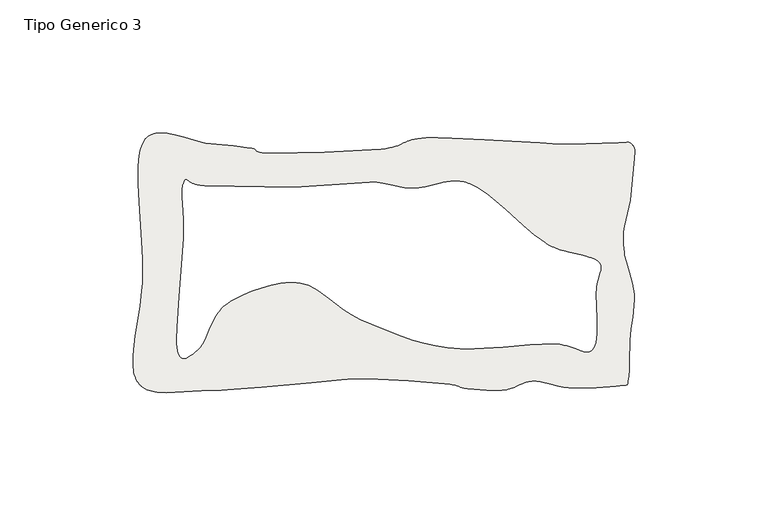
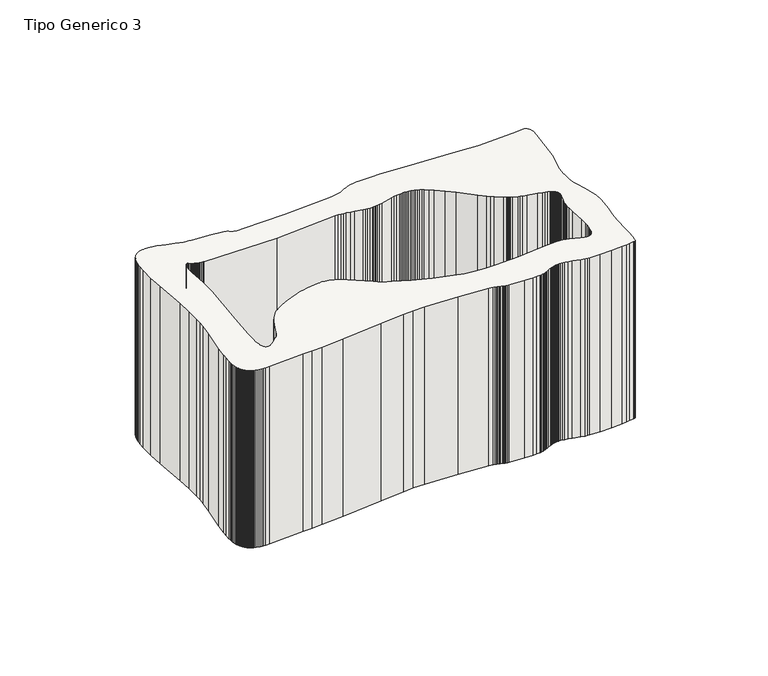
"""IFC4 building model written with IfcOpenShell, lengths in millimetres: slab geometry, Tipo Generico 3."""

from ifc_helpers import new_model, si_unit, frame, origin, place, context, project, spatial, polyline, outline, extrude, source, transform, mapped, element, save


def tipo_generico_3_98846efd(model_context):
    return source(origin(), model_context, "Body", "SweptSolid", [
        extrude(outline(polyline([(-1760.9485736, -478.9509697), (-1760.8884542, -476.7151747), (-1760.7050429, -474.3327444), (-1760.0611211, -469.2025091), (-1758.3188734, -458.0029401), (-1757.5931646, -452.2317603), (-1757.3484137, -449.3686027), (-1757.213221, -446.5451929), (-1757.2742569, -440.4514421), (-1757.6392466, -433.5979559), (-1758.6359509, -419.0414542), (-1758.944178, -412.0536159), (-1758.9106097, -405.736017), (-1758.7149911, -402.9403026), (-1758.5636243, -401.6527654), (-1758.3731957, -400.4462534), (-1758.141262, -399.3262599), (-1757.8653831, -398.2985035), (-1757.7100494, -397.8209024), (-1757.5425057, -397.3684805), (-1757.363064, -396.9419207), (-1757.1708023, -396.5418361), (-1756.9648097, -396.1673832), (-1756.7444731, -395.8167374), (-1756.5097927, -395.4894376), (-1756.2613786, -395.184871), (-1755.9998435, -394.9024302), (-1755.7254912, -394.6415052), (-1755.4386252, -394.4017136), (-1755.1395521, -394.1822908), (-1754.8291883, -393.98286), (-1754.5072274, -393.8026536), (-1754.1745859, -393.6412163), (-1753.8315703, -393.4980111), (-1753.4784813, -393.3724306), (-1753.115932, -393.2638649), (-1752.7439222, -393.1717796), (-1752.3633685, -393.095638), (-1751.9742681, -393.0348298), (-1751.5772367, -392.9889024), (-1750.761197, -392.9390054), (-1749.9179962, -392.9414485), (-1749.0512948, -392.991801), (-1748.1641487, -393.0853369), (-1747.2599148, -393.2177829), (-1745.413296, -393.5807146), (-1741.6590226, -394.5723836), (-1737.9978296, -395.6768131), (-1734.6396739, -396.6040134), (-1733.1394304, -396.9105621), (-1732.4454597, -397.0086779), (-1731.7936041, -397.0639897), (-1723.2218292, -397.7515504), (-1716.8521994, -398.6163429), (-1716.5204716, -398.6729536), (-1716.2317755, -398.7333794), (-1715.982754, -398.7972352), (-1715.7691311, -398.8642229), (-1715.5878565, -398.9339545), (-1715.5078997, -398.9697382), (-1715.4346566, -399.0060533), (-1715.3675199, -399.0429026), (-1715.3061776, -399.0802101), (-1715.2497215, -399.1179759), (-1715.198146, -399.1560482), (-1715.1508439, -399.1944999), (-1715.1075086, -399.2331795), (-1715.0672266, -399.2721654), (-1715.029995, -399.311306), (-1714.9616354, -399.3901157), (-1714.8993793, -399.46908), (-1714.7770038, -399.6264745), (-1714.7095607, -399.7041427), (-1714.6726327, -399.7425186), (-1714.6329608, -399.780588), (-1714.589932, -399.8183538), (-1714.54324, -399.8555855), (-1714.4922746, -399.8924347), (-1714.4367322, -399.9286767), (-1714.3760027, -399.9644577), (-1714.3097797, -399.9996285), (-1714.2374532, -400.0341134), (-1714.1584129, -400.0679123), (-1713.9792749, -400.1332974), (-1713.7683988, -400.195323), (-1713.5221213, -400.2537639), (-1713.2364755, -400.3081621), (-1712.5327408, -400.4036041), (-1711.6272839, -400.4787562), (-1709.0903578, -400.556804), (-1688.897793, -400.1647291), (-1667.565091, -399.0044508), (-1665.8803678, -398.8033388), (-1664.4519926, -398.564236), (-1663.2431892, -398.2933923), (-1662.2167317, -397.9972178), (-1661.335841, -397.682277), (-1660.5635948, -397.3547467), (-1659.1970174, -396.6878612), (-1658.5286812, -396.3612474), (-1657.8211314, -396.0476786), (-1657.0375945, -395.7537194), (-1656.6056172, -395.6160077), (-1656.1408334, -395.4855466), (-1655.0939284, -395.249722), (-1653.8599516, -395.0525009), (-1652.4021268, -394.9003694), (-1650.6832224, -394.7997403), (-1646.3671234, -394.7523594), (-1641.0888022, -394.8721428), (-1628.9867508, -395.4402265), (-1607.9937104, -396.6758846), (-1600.8496977, -397.1138109), (-1599.3200018, -397.2112378), (-1596.7391304, -397.2335155), (-1578.3161262, -396.5647998), (-1575.2777975, -396.3897805), (-1575.1380278, -396.3823049), (-1575.0772955, -396.3813125), (-1575.0214495, -396.382229), (-1574.9691121, -396.3853553), (-1574.919215, -396.3908488), (-1574.8706928, -396.3987827), (-1574.8224741, -396.4093114), (-1574.7733418, -396.4226629), (-1574.7220727, -396.4389916), (-1574.6090059, -396.4810279), (-1574.309168, -396.6075249), (-1574.2185307, -396.6487993), (-1574.13003, -396.693813), (-1574.0438179, -396.7424871), (-1573.959897, -396.7945967), (-1573.8781072, -396.8500632), (-1573.7984569, -396.9088078), (-1573.7210951, -396.9705297), (-1573.6457181, -397.0351502), (-1573.5015204, -397.1725583), (-1573.3657176, -397.3198795), (-1573.2381551, -397.475902), (-1573.1188301, -397.639476), (-1573.0074416, -397.80946), (-1572.9041389, -397.9846311), (-1572.8084663, -398.163845), (-1572.7204239, -398.3460334), (-1572.6400117, -398.529903), (-1572.5670722, -398.7143827), (-1572.4428665, -399.080362), (-1572.2986717, -399.556667), (-1572.2905832, -399.5958806), (-1572.2844796, -399.6341806), (-1572.2803609, -399.6724805), (-1572.2780724, -399.7120766), (-1572.2776141, -399.7538093), (-1572.2791407, -399.7989747), (-1572.2870746, -399.9033458), (-1572.550288, -402.3947242), (-1574.0360359, -418.2148098), (-1576.364529, -427.9169579), (-1576.6155353, -430.2409472), (-1576.6986943, -431.3580421), (-1576.742946, -432.4891013), (-1576.7395892, -433.6672321), (-1576.6809964, -434.9252437), (-1576.558621, -436.2962434), (-1576.364529, -437.813198), (-1576.2243011, -438.6328223), (-1576.0408897, -439.4886885), (-1575.5706124, -441.2968555), (-1574.4027068, -445.2111155), (-1573.2845407, -449.3557854), (-1572.8765223, -451.4519598), (-1572.7333929, -452.4951284), (-1572.6397052, -453.5307427), (-1572.594998, -454.5727643), (-1572.5913348, -455.6350815), (-1572.6879239, -457.8072457), (-1573.1676588, -462.2506063), (-1573.7809108, -466.6514696), (-1574.2301278, -470.8006406), (-1574.4092658, -478.8825342), (-1574.486324, -482.4486646), (-1574.596034, -483.9363973), (-1574.6779756, -484.584286), (-1574.781582, -485.1598453), (-1574.8771028, -485.6575115), (-1574.9399689, -486.080408), (-1575.0069538, -486.7295168), (-1575.0309099, -486.969463), (-1575.0447955, -487.0712392), (-1575.0615797, -487.1620284), (-1575.0714984, -487.2036092), (-1575.0826372, -487.242747), (-1575.0951508, -487.2795204), (-1575.1090336, -487.3141599), (-1575.1166638, -487.3306376), (-1575.1245976, -487.3466599), (-1575.1331444, -487.3622239), (-1575.1421465, -487.3771778), (-1575.1516069, -487.3917494), (-1575.1615256, -487.4058627), (-1575.1719026, -487.4194447), (-1575.1830414, -487.4327202), (-1575.1946357, -487.4455375), (-1575.2068429, -487.4578965), (-1575.2196602, -487.4698731), (-1575.2330903, -487.4814702), (-1575.2471277, -487.4927637), (-1575.261927, -487.503672), (-1575.2773392, -487.5142008), (-1575.2935133, -487.5244259), (-1575.3278464, -487.5440327), (-1575.3653816, -487.5624953), (-1575.4061247, -487.5798896), (-1575.4502218, -487.5962942), (-1575.5490994, -487.626964), (-1575.6632346, -487.6551175), (-1575.9421639, -487.7077585), (-1577.9169581, -487.9930979), (-1579.5874892, -488.2013032), (-1581.7211258, -488.3854005), (-1586.8689831, -488.657619), (-1592.3435329, -488.7624455), (-1597.1271624, -488.6526596), (-1598.1371422, -488.5717104), (-1599.1182825, -488.4497932), (-1601.0004545, -488.1092938), (-1604.4887648, -487.2264211), (-1606.1197759, -486.7895603), (-1607.6920423, -486.4260213), (-1608.460018, -486.2882337), (-1609.2179231, -486.1885942), (-1609.9675852, -486.1336619), (-1610.3397468, -486.1250421), (-1610.71023, -486.1300773), (-1611.0747642, -486.1495323), (-1611.4290733, -486.1831007), (-1611.7737701, -486.2299445), (-1612.109462, -486.2890743), (-1612.4372201, -486.3597225), (-1612.7573507, -486.4409753), (-1613.3783819, -486.6318622), (-1613.9782066, -486.8547937), (-1614.5623127, -487.1027468), (-1615.7068751, -487.6460366), (-1616.8575383, -488.2060348), (-1617.4492746, -488.4748177), (-1618.059628, -488.726971), (-1618.6942412, -488.9553932), (-1619.3589141, -489.1531484), (-1620.0589856, -489.3132897), (-1620.4242817, -489.3770695), (-1620.800562, -489.4288727), (-1622.4309658, -489.5673464), (-1624.2266191, -489.6273898), (-1628.0771752, -489.5622352), (-1635.1598455, -489.0407676), (-1635.8159745, -488.9618792), (-1636.3663604, -488.8714695), (-1636.8299212, -488.7709922), (-1637.2260389, -488.66151), (-1637.5737861, -488.5442457), (-1637.892542, -488.4205742), (-1638.5192214, -488.1587326), (-1638.8655966, -488.0230817), (-1639.2595777, -487.8858282), (-1639.7202399, -487.7484229), (-1640.2671172, -487.6118582), (-1640.9189728, -487.4775792), (-1641.6953377, -487.3467358), (-1643.6977485, -487.1003065), (-1657.3536037, -485.9911454), (-1672.6102556, -485.3009139), (-1678.0828205, -485.3928473), (-1682.7005876, -485.7122133), (-1693.9551648, -486.7121985), (-1712.6957047, -488.4787087), (-1722.9969128, -489.3155782), (-1727.8104502, -489.5588025), (-1732.181788, -489.6228888), (-1748.3673974, -490.490428), (-1750.1780047, -490.4526622), (-1751.0495868, -490.3959756), (-1751.8961444, -490.3103735), (-1752.7158474, -490.1934157), (-1753.5074727, -490.0422007), (-1754.2691901, -489.8540605), (-1754.9988658, -489.6263215), (-1755.3513447, -489.4967769), (-1755.6952768, -489.3563184), (-1756.0303614, -489.2045693), (-1756.3565929, -489.0413017), (-1756.6733667, -488.8661307), (-1756.9809838, -488.6786006), (-1757.2788339, -488.4785569), (-1757.56692, -488.2655441), (-1757.844632, -488.0392558), (-1758.1122707, -487.7993883), (-1758.3695324, -487.5455593), (-1758.6158099, -487.2774624), (-1758.8514068, -486.9947152), (-1759.0757102, -486.6970168), (-1759.288723, -486.3839822), (-1759.4898323, -486.0553835), (-1759.6781271, -485.7114514), (-1759.8514679, -485.3527171), (-1760.0107685, -484.979639), (-1760.1560318, -484.5924476), (-1760.2878676, -484.1913705), (-1760.4065826, -483.7768661), (-1760.6058616, -482.9082585), (-1760.7566183, -481.9890707), (-1760.8622096, -481.0215855), (-1760.9250758, -480.008097), (-1760.9485736, -478.9509697)]), holes=[polyline([(-1741.7328754, -411.2597762), (-1741.9571796, -411.7942915), (-1742.0697894, -412.1143446), (-1742.1659198, -412.4566756), (-1742.2464862, -412.8212081), (-1742.3124042, -413.2077895), (-1742.3648944, -413.6164198), (-1742.4042621, -414.0468703), (-1742.4482074, -414.9729262), (-1742.423183, -417.0826827), (-1742.296535, -419.5301161), (-1741.9751849, -425.4100905), (-1741.8985858, -428.8286696), (-1741.9571796, -432.5570021), (-1743.6319842, -454.522029), (-1744.3869891, -465.9814559), (-1744.4809833, -470.5603896), (-1744.4242206, -472.4034224), (-1744.3656268, -473.1934462), (-1744.2856708, -473.8882552), (-1744.1852679, -474.5018111), (-1744.0674701, -475.0532637), (-1743.9331927, -475.5448256), (-1743.8599506, -475.7688246), (-1743.7827411, -475.9787856), (-1743.7018695, -476.1747847), (-1743.6173358, -476.3572798), (-1743.52914, -476.5264998), (-1743.4372821, -476.6826735), (-1743.3420673, -476.8261824), (-1743.2434955, -476.9572554), (-1743.1415668, -477.0761214), (-1743.0893817, -477.131053), (-1743.0365863, -477.1830855), (-1742.9831805, -477.2322951), (-1742.9285541, -477.2785292), (-1742.8736224, -477.3220168), (-1742.8177753, -477.3626051), (-1742.7610126, -477.4005232), (-1742.7039447, -477.4356947), (-1742.6459613, -477.468196), (-1742.5870624, -477.4980269), (-1742.5278583, -477.5251875), (-1742.4677386, -477.5498305), (-1742.4073138, -477.5718794), (-1742.3459735, -477.591487), (-1742.2840228, -477.6085768), (-1742.2214618, -477.6232253), (-1742.1582904, -477.6354323), (-1742.0948138, -477.6453505), (-1742.0304217, -477.6529036), (-1741.9654193, -477.6580916), (-1741.8341937, -477.6617537), (-1741.7005267, -477.6567183), (-1741.5650287, -477.6430617), (-1741.4276996, -477.6212416), (-1741.2882342, -477.591487), (-1741.147243, -477.5540267), (-1741.0044208, -477.5092421), (-1740.8600726, -477.4573622), (-1740.7145038, -477.3986159), (-1740.4187884, -477.2618208), (-1740.1184955, -477.1011458), (-1739.81393, -476.9188033), (-1739.1956439, -476.4981947), (-1738.5703387, -476.0179244), (-1736.1155048, -473.8604079), (-1735.9705463, -473.7235365), (-1735.8286395, -473.5765944), (-1735.6891742, -473.4198103), (-1735.5518451, -473.2535658), (-1735.2839007, -472.893611), (-1735.0235858, -472.499095), (-1734.7693744, -472.072383), (-1734.5200458, -471.6159163), (-1734.0311542, -470.6229506), (-1732.0179095, -465.9317885), (-1730.8326068, -463.4195815), (-1730.1596942, -462.1880446), (-1729.4193378, -460.9980879), (-1729.020473, -460.4246626), (-1728.6011615, -459.8687087), (-1728.1601825, -459.3326674), (-1727.6957049, -458.8188277), (-1727.2065082, -458.3295546), (-1726.6916766, -457.8672896), (-1726.1499896, -457.4343215), (-1725.5796161, -457.0330916), (-1724.3415179, -456.2584792), (-1722.9758563, -455.4793654), (-1719.9216571, -453.9441786), (-1716.5339007, -452.501155), (-1712.9291644, -451.223918), (-1711.0822406, -450.6704817), (-1709.225246, -450.1860915), (-1707.3725238, -449.7799025), (-1705.5384173, -449.4611464), (-1703.7381854, -449.2390547), (-1701.9861713, -449.1228591), (-1701.1328998, -449.1072951), (-1700.2970233, -449.1216384), (-1699.4806781, -449.1671095), (-1698.68539, -449.2447005), (-1697.909328, -449.361125), (-1697.1482196, -449.5205794), (-1696.4011493, -449.7206984), (-1695.6668964, -449.9593459), (-1694.9442401, -450.234233), (-1694.2316547, -450.5430708), (-1693.5285297, -450.8835707), (-1692.833034, -451.2534438), (-1691.4612689, -452.0724593), (-1690.1068988, -452.9818831), (-1687.4112811, -454.9994002), (-1681.805202, -459.3210707), (-1680.3028216, -460.3553877), (-1678.740932, -461.3349257), (-1677.10992, -462.241603), (-1675.4000201, -463.0571852), (-1668.0158343, -466.2254439), (-1659.985744, -469.3360243), (-1655.7767596, -470.7376967), (-1651.4644733, -471.966487), (-1647.0679584, -472.9695998), (-1642.6065936, -473.6942397), (-1640.2965655, -473.9256392), (-1637.8679767, -474.0596114), (-1632.7422443, -474.0813551), (-1622.0258441, -473.4616194), (-1611.8491473, -472.5700484), (-1607.3981586, -472.2521315), (-1603.6039081, -472.1418868), (-1602.7677264, -472.1627913), (-1601.9625201, -472.2116194), (-1600.4416766, -472.3831282), (-1599.0349689, -472.6359664), (-1597.7355304, -472.9499159), (-1596.5366473, -473.3046065), (-1595.431911, -473.6796675), (-1593.4772601, -474.4098006), (-1592.6140704, -474.7242079), (-1591.818172, -474.9777327), (-1591.4432635, -475.0753127), (-1591.0828509, -475.1500044), (-1590.90768, -475.1780806), (-1590.7357135, -475.1993666), (-1590.5669513, -475.2137862), (-1590.4012408, -475.2208052), (-1590.2385821, -475.2202712), (-1590.07867, -475.2118025), (-1589.9215045, -475.1950942), (-1589.766933, -475.1697646), (-1589.6149554, -475.1355849), (-1589.4654193, -475.0922499), (-1589.318172, -475.0393019), (-1589.1732135, -474.9765883), (-1589.0302386, -474.9036513), (-1588.8894, -474.820262), (-1588.7503924, -474.7261153), (-1588.6132159, -474.6208296), (-1588.4777179, -474.5041762), (-1588.3437457, -474.3756972), (-1588.211452, -474.23524), (-1588.080379, -474.082347), (-1587.9534259, -473.9158736), (-1587.8333392, -473.7349806), (-1587.7198138, -473.5402022), (-1587.6128497, -473.3318434), (-1587.5121417, -473.1104384), (-1587.4176898, -472.8762923), (-1587.3291888, -472.6298628), (-1587.2463336, -472.3715315), (-1587.0978656, -471.8209944), (-1586.9706073, -471.2279616), (-1586.8634906, -470.5957137), (-1586.7751422, -469.9276076), (-1586.6495624, -468.4971724), (-1586.5834918, -466.9630538), (-1586.5886798, -463.6903487), (-1586.8569293, -457.0702467), (-1586.9541278, -454.1478835), (-1586.9571796, -452.8765975), (-1586.9161334, -451.7672835), (-1586.8213763, -450.7830916), (-1586.6780963, -449.866191), (-1586.4977374, -449.0118514), (-1586.2915912, -448.2154952), (-1585.4364886, -445.5146132), (-1585.2719989, -444.9369917), (-1585.2050128, -444.659587), (-1585.1499286, -444.3890486), (-1585.1084247, -444.1246901), (-1585.0817218, -443.8659773), (-1585.0713458, -443.6123763), (-1585.0727191, -443.4872542), (-1585.0788226, -443.3632002), (-1585.0895038, -443.2401381), (-1585.1052203, -443.1179152), (-1585.1261249, -442.9965315), (-1585.1522174, -442.8759108), (-1585.1839557, -442.7559004), (-1585.2213397, -442.6365767), (-1585.2645221, -442.5177107), (-1585.3136554, -442.3993788), (-1585.3690448, -442.2813521), (-1585.4309955, -442.1637068), (-1585.4993548, -442.0462142), (-1585.5744281, -441.9289504), (-1585.6565204, -441.8116866), (-1585.7456317, -441.6944991), (-1585.8420673, -441.5772353), (-1585.945827, -441.4598189), (-1586.0581317, -441.3436995), (-1586.1791339, -441.2302504), (-1586.3089862, -441.1193953), (-1586.4472308, -441.0110579), (-1586.5937152, -440.9051619), (-1586.7481341, -440.8017073), (-1587.079555, -440.6017409), (-1587.4399676, -440.4107009), (-1587.8269305, -440.2279769), (-1588.6730304, -439.8854933), (-1589.6021381, -439.570323), (-1590.597774, -439.2782698), (-1592.725307, -438.7471877), (-1597.0746722, -437.7823744), (-1599.0393939, -437.2830306), (-1599.9132648, -437.0147811), (-1600.6931415, -436.7286788), (-1602.8733173, -435.8988295), (-1603.6167255, -435.617076), (-1603.960506, -435.4705153), (-1604.307796, -435.3052626), (-1604.6756854, -435.110179), (-1605.0806537, -434.8742018), (-1606.0694232, -434.2348586), (-1609.2311969, -431.974803), (-1610.3560748, -431.1042891), (-1611.611568, -430.0568495), (-1614.4530597, -427.5399123), (-1621.0384479, -421.5753279), (-1624.5414081, -418.5608779), (-1628.0242267, -415.8139144), (-1629.7203937, -414.6083174), (-1631.3665118, -413.5508071), (-1632.1659198, -413.0861006), (-1632.9471698, -412.6684676), (-1633.7084308, -412.3014174), (-1634.4477191, -411.9883071), (-1635.1741901, -411.7261611), (-1635.898067, -411.5080367), (-1636.6191974, -411.3316451), (-1637.3375812, -411.1945448), (-1638.0530658, -411.0944472), (-1638.7654986, -411.0289107), (-1639.4748798, -410.9957228), (-1640.1807513, -410.9923659), (-1640.883266, -411.0165511), (-1641.5822711, -411.065837), (-1642.9689899, -411.2305556), (-1644.3399921, -411.4675246), (-1645.694057, -411.7578993), (-1650.9226337, -413.0752669), (-1652.1778216, -413.3490859), (-1653.4099689, -413.5628615), (-1654.0171161, -413.641368), (-1654.6181598, -413.6976729), (-1655.2131, -413.7296401), (-1655.8016315, -413.7347518), (-1656.9297137, -413.6933241), (-1657.9810443, -413.6094771), (-1658.9688983, -413.4893904), (-1659.9059405, -413.3390914), (-1663.4063068, -412.5583754), (-1665.1886859, -412.1457778), (-1667.130672, -411.7836867), (-1668.1937518, -411.6368208), (-1669.3357196, -411.520854), (-1670.5692401, -411.4419661), (-1671.9072833, -411.4061842), (-1700.4316058, -413.3466445), (-1734.1953387, -412.7909957), (-1734.8227801, -412.756053), (-1735.4087176, -412.7009688), (-1735.9549823, -412.6278792), (-1736.4627948, -412.5387679), (-1736.9342914, -412.4356947), (-1737.3706927, -412.3206435), (-1737.7741351, -412.195674), (-1738.1458392, -412.0628462), (-1738.4879413, -411.9241438), (-1738.801662, -411.781703), (-1739.0891376, -411.6373549), (-1739.3515887, -411.4933119), (-1739.8084369, -411.2140761), (-1740.1862445, -410.9602461), (-1740.4981341, -410.7480727), (-1740.6336322, -410.6626235), (-1740.6968036, -410.6260024), (-1740.7575336, -410.59373), (-1740.8158221, -410.5661116), (-1740.8716693, -410.543376), (-1740.8988299, -410.5339156), (-1740.9253802, -410.5257521), (-1740.9516254, -410.518962), (-1740.9775653, -410.5136214), (-1741.0028949, -410.5095778), (-1741.0279193, -410.5070601), (-1741.0526385, -410.505992), (-1741.0770526, -410.5063735), (-1741.1011615, -410.5083571), (-1741.1249652, -410.5119429), (-1741.1484637, -410.5170546), (-1741.1716571, -410.5238448), (-1741.1948505, -410.5323134), (-1741.2177386, -410.5424605), (-1741.2406268, -410.5543623), (-1741.2632098, -410.5679427), (-1741.2857928, -410.5834303), (-1741.3083758, -410.6006728), (-1741.3309589, -410.6198226), (-1741.3535419, -410.6408034), (-1741.3758197, -410.6636916), (-1741.3984027, -410.6886397), (-1741.4438739, -410.7443343), (-1741.4896503, -410.8082686), (-1741.536037, -410.8806716), (-1741.5833392, -410.961772), (-1741.6318622, -411.0517989), (-1741.7328754, -411.2597762)])]), frame((0.0, 0.0, -88.0), z_axis=(0.0, 0.0, 1.0), x_axis=(1.0, 0.0, 0.0)), (0.0, 0.0, 1.0), 88.0),
    ])


if __name__ == "__main__":
    model = new_model("IFC4")
    model_context = context("Model", 3, world=origin())
    ifc_project = project(units=[si_unit("LENGTHUNIT", "METRE", prefix="MILLI")], contexts=[model_context])
    site = spatial("IfcSite", under=ifc_project)
    building = spatial("IfcBuilding", under=site)
    placement = place(None, origin())
    tipo_generico_3_shape = tipo_generico_3_98846efd(model_context)
    element("IfcSlab", 1, ObjectType="Tipo Generico 3", at=placement, inside=building, context=model_context, shape_type="MappedRepresentation", body=[
        mapped(tipo_generico_3_shape, transform((0.0, 0.0, 0.0), x_axis=(1.0, 0.0, 0.0), y_axis=(0.0, 1.0, 0.0), z_axis=(0.0, 0.0, 1.0))),
    ])
    save(model, "model.ifc")
